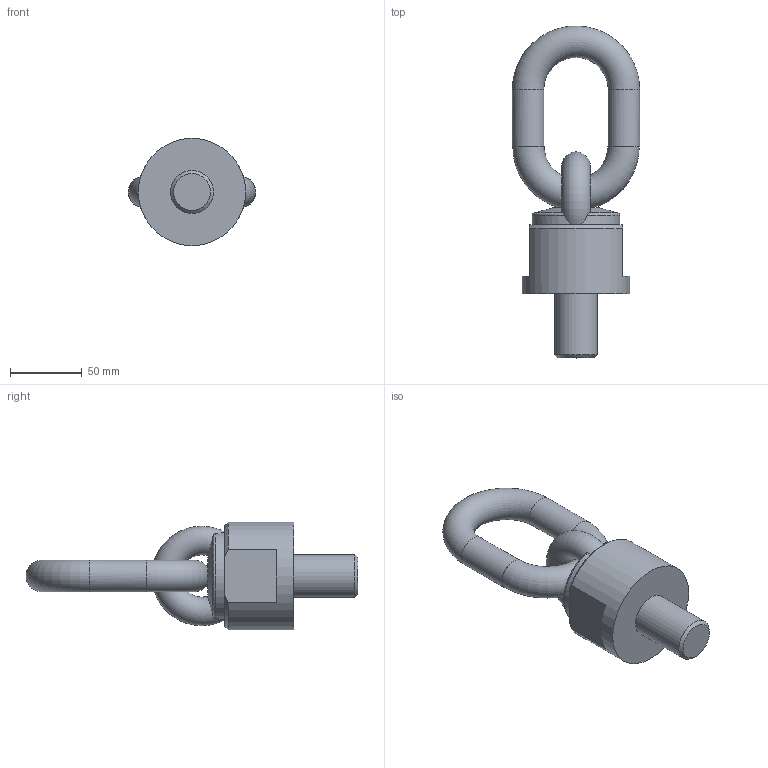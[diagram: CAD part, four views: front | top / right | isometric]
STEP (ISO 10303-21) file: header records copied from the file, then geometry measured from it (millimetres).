
FILE_DESCRIPTION( ( 'STEP AP203' ), '1' );
FILE_NAME( 'p:/temp/worker_1/temp/app_47_0201906261620005630690610e898ce_000000_00_00_000000/format_2/C8000503045.stp', '2019-06-26T14:20:03', ( '' ), ( '' ), ' ', 'PARTsolutions', ' ' );
FILE_SCHEMA( ( 'CONFIG_CONTROL_DESIGN' ) );
Length unit declared in the file: millimetre
Products named in the file (1): _C8000503045
Bounding box: 89 x 231.98 x 75 mm (x, y, z)
Volume: 403074.5 mm3; surface area: 49854.8 mm2
Topology: 1 solids, 1 shells, 28 faces, 70 edges, 44 vertices
Faces by surface type: plane 12, cylinder 6, torus 5, cone 5
Full cylindrical faces by diameter (mm): 22 x2, 30 x1, 75 x1
Entity records: 1211 total; most frequent: CARTESIAN_POINT 561, DIRECTION 122, ORIENTED_EDGE 116, EDGE_CURVE 58, AXIS2_PLACEMENT_3D 57, EDGE_LOOP 42, VERTEX_POINT 41, FACE_OUTER_BOUND 35
